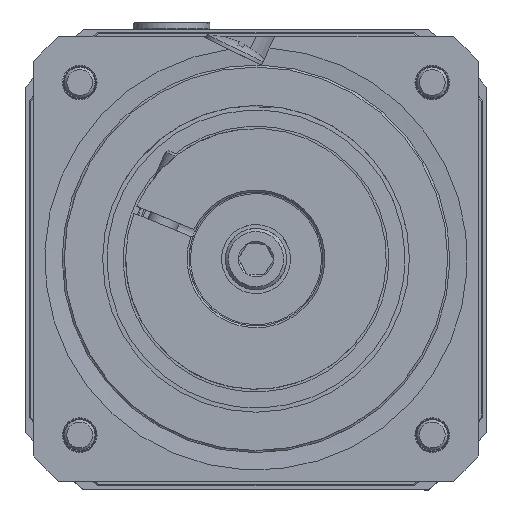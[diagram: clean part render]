
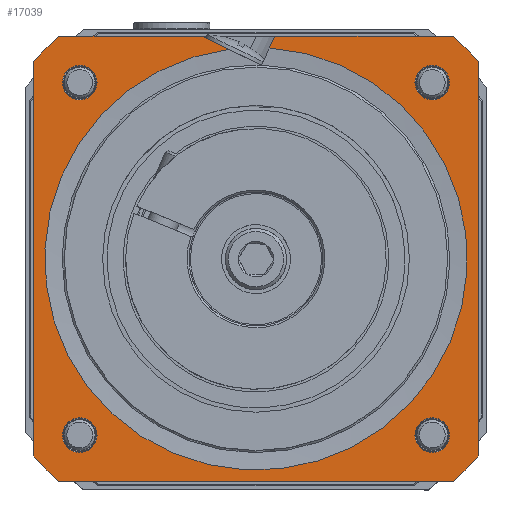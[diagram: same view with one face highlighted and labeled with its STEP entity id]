
A CAD part, top view. The second image highlights one B-rep face of the part: STEP entity #17039.
In plain terms, the highlighted planar face has unit normal (0, 0, 1).
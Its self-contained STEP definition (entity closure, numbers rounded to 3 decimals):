
#123 = AXIS2_PLACEMENT_3D ( 'NONE', #40960, #3451, #59847 ) ;
#420 = EDGE_CURVE ( 'NONE', #672, #57502, #23018, .T. ) ;
#534 = CARTESIAN_POINT ( 'NONE',  ( 51.403, 58., 30. ) ) ;
#672 = VERTEX_POINT ( 'NONE', #46834 ) ;
#851 = LINE ( 'NONE', #58148, #37894 ) ;
#884 = VERTEX_POINT ( 'NONE', #43577 ) ;
#899 = EDGE_CURVE ( 'NONE', #43371, #27096, #19960, .T. ) ;
#1407 = ORIENTED_EDGE ( 'NONE', *, *, #38966, .F. ) ;
#1421 = ORIENTED_EDGE ( 'NONE', *, *, #33701, .F. ) ;
#1693 = DIRECTION ( 'NONE',  ( -1., 0., 0. ) ) ;
#2261 = AXIS2_PLACEMENT_3D ( 'NONE', #8377, #40593, #59491 ) ;
#2375 = EDGE_CURVE ( 'NONE', #23643, #43371, #20975, .T. ) ;
#2742 = CIRCLE ( 'NONE', #61108, 4.5 ) ;
#3200 = CARTESIAN_POINT ( 'NONE',  ( 58., 58., 30. ) ) ;
#3451 = DIRECTION ( 'NONE',  ( 0., 0., 1. ) ) ;
#4769 = CARTESIAN_POINT ( 'NONE',  ( 50.462, 45.962, 30. ) ) ;
#5022 = VERTEX_POINT ( 'NONE', #30177 ) ;
#5069 = AXIS2_PLACEMENT_3D ( 'NONE', #33363, #52234, #6077 ) ;
#6077 = DIRECTION ( 'NONE',  ( -1., 0., 0. ) ) ;
#6351 = DIRECTION ( 'NONE',  ( 0., 0., -1. ) ) ;
#7037 = CARTESIAN_POINT ( 'NONE',  ( 58., -51.403, 30. ) ) ;
#7819 = FACE_BOUND ( 'NONE', #56952, .T. ) ;
#8377 = CARTESIAN_POINT ( 'NONE',  ( -45.962, 45.962, 30. ) ) ;
#8633 = ORIENTED_EDGE ( 'NONE', *, *, #50946, .F. ) ;
#9317 = VERTEX_POINT ( 'NONE', #21871 ) ;
#10091 = VECTOR ( 'NONE', #36905, 1000. ) ;
#10646 = VERTEX_POINT ( 'NONE', #29543 ) ;
#10674 = ORIENTED_EDGE ( 'NONE', *, *, #40647, .F. ) ;
#11527 = AXIS2_PLACEMENT_3D ( 'NONE', #40120, #30208, #35475 ) ;
#12389 = AXIS2_PLACEMENT_3D ( 'NONE', #14983, #43478, #53975 ) ;
#12932 = DIRECTION ( 'NONE',  ( -0.438, -0.899, 0. ) ) ;
#13391 = LINE ( 'NONE', #36595, #10091 ) ;
#14475 = AXIS2_PLACEMENT_3D ( 'NONE', #38883, #6351, #1693 ) ;
#14983 = CARTESIAN_POINT ( 'NONE',  ( 0., 0., 30. ) ) ;
#16984 = LINE ( 'NONE', #45459, #49186 ) ;
#17039 = ADVANCED_FACE ( 'NONE', ( #26429, #40655, #35993, #7819, #45601 ), #22071, .T. ) ;
#17110 = CIRCLE ( 'NONE', #2261, 4.5 ) ;
#18825 = ORIENTED_EDGE ( 'NONE', *, *, #48485, .T. ) ;
#19960 = CIRCLE ( 'NONE', #5069, 77.5 ) ;
#20920 = VECTOR ( 'NONE', #30751, 1000. ) ;
#20975 = LINE ( 'NONE', #3200, #43805 ) ;
#20982 = VERTEX_POINT ( 'NONE', #45389 ) ;
#21460 = CARTESIAN_POINT ( 'NONE',  ( -58., -77.5, 30. ) ) ;
#21524 = VERTEX_POINT ( 'NONE', #40720 ) ;
#21871 = CARTESIAN_POINT ( 'NONE',  ( -13.984, 58., 30. ) ) ;
#22071 = PLANE ( 'NONE',  #123 ) ;
#22821 = VERTEX_POINT ( 'NONE', #44562 ) ;
#23018 = LINE ( 'NONE', #41901, #49001 ) ;
#23643 = VERTEX_POINT ( 'NONE', #50827 ) ;
#25318 = ORIENTED_EDGE ( 'NONE', *, *, #47421, .F. ) ;
#25728 = DIRECTION ( 'NONE',  ( 1., 0., 0. ) ) ;
#26429 = FACE_BOUND ( 'NONE', #48546, .T. ) ;
#27096 = VERTEX_POINT ( 'NONE', #43953 ) ;
#28134 = CIRCLE ( 'NONE', #39976, 77.5 ) ;
#28215 = CIRCLE ( 'NONE', #12389, 77.5 ) ;
#28415 = EDGE_CURVE ( 'NONE', #57502, #23643, #53365, .T. ) ;
#28528 = CARTESIAN_POINT ( 'NONE',  ( 0., 0., 30. ) ) ;
#29152 = DIRECTION ( 'NONE',  ( 1., 0., 0. ) ) ;
#29543 = CARTESIAN_POINT ( 'NONE',  ( -41.462, -45.962, 30. ) ) ;
#30177 = CARTESIAN_POINT ( 'NONE',  ( -51.403, -58., 30. ) ) ;
#30208 = DIRECTION ( 'NONE',  ( 0., 0., 1. ) ) ;
#30312 = CIRCLE ( 'NONE', #11527, 4.5 ) ;
#30751 = DIRECTION ( 'NONE',  ( 0., 1., 0. ) ) ;
#30812 = ORIENTED_EDGE ( 'NONE', *, *, #899, .F. ) ;
#31205 = EDGE_LOOP ( 'NONE', ( #25318 ) ) ;
#31414 = EDGE_CURVE ( 'NONE', #39524, #884, #36288, .T. ) ;
#32520 = AXIS2_PLACEMENT_3D ( 'NONE', #34001, #56878, #42364 ) ;
#32978 = CARTESIAN_POINT ( 'NONE',  ( 50.462, -45.962, 30. ) ) ;
#33356 = EDGE_CURVE ( 'NONE', #20982, #34528, #41173, .T. ) ;
#33363 = CARTESIAN_POINT ( 'NONE',  ( 0., 0., 30. ) ) ;
#33677 = ORIENTED_EDGE ( 'NONE', *, *, #60668, .F. ) ;
#33701 = EDGE_CURVE ( 'NONE', #5022, #39524, #28215, .T. ) ;
#34001 = CARTESIAN_POINT ( 'NONE',  ( 45.962, 45.962, 30. ) ) ;
#34457 = ORIENTED_EDGE ( 'NONE', *, *, #31414, .F. ) ;
#34528 = VERTEX_POINT ( 'NONE', #40580 ) ;
#35475 = DIRECTION ( 'NONE',  ( 1., 0., 0. ) ) ;
#35993 = FACE_BOUND ( 'NONE', #55332, .T. ) ;
#36288 = LINE ( 'NONE', #21460, #20920 ) ;
#36595 = CARTESIAN_POINT ( 'NONE',  ( -10.37, 56.238, 30. ) ) ;
#36905 = DIRECTION ( 'NONE',  ( -0.899, 0.438, 0. ) ) ;
#37298 = VERTEX_POINT ( 'NONE', #32978 ) ;
#37537 = AXIS2_PLACEMENT_3D ( 'NONE', #28528, #60765, #51178 ) ;
#37894 = VECTOR ( 'NONE', #47943, 1000. ) ;
#38490 = ORIENTED_EDGE ( 'NONE', *, *, #2375, .F. ) ;
#38685 = EDGE_CURVE ( 'NONE', #34528, #9317, #13391, .T. ) ;
#38883 = CARTESIAN_POINT ( 'NONE',  ( 0., 0., 30. ) ) ;
#38966 = EDGE_CURVE ( 'NONE', #22821, #9317, #49269, .T. ) ;
#39022 = ORIENTED_EDGE ( 'NONE', *, *, #28415, .F. ) ;
#39254 = EDGE_LOOP ( 'NONE', ( #44808, #18825, #43770, #55536, #1407, #33677, #34457, #1421, #10674, #30812, #38490, #39022 ) ) ;
#39524 = VERTEX_POINT ( 'NONE', #49362 ) ;
#39861 = DIRECTION ( 'NONE',  ( 0., -1., 0. ) ) ;
#39976 = AXIS2_PLACEMENT_3D ( 'NONE', #60641, #42361, #55972 ) ;
#40025 = EDGE_CURVE ( 'NONE', #21524, #21524, #17110, .T. ) ;
#40120 = CARTESIAN_POINT ( 'NONE',  ( 45.962, -45.962, 30. ) ) ;
#40580 = CARTESIAN_POINT ( 'NONE',  ( -7.087, 54.636, 30. ) ) ;
#40593 = DIRECTION ( 'NONE',  ( 0., 0., 1. ) ) ;
#40647 = EDGE_CURVE ( 'NONE', #27096, #5022, #851, .T. ) ;
#40655 = FACE_BOUND ( 'NONE', #31205, .T. ) ;
#40720 = CARTESIAN_POINT ( 'NONE',  ( -41.462, 45.962, 30. ) ) ;
#40942 = ORIENTED_EDGE ( 'NONE', *, *, #53913, .F. ) ;
#40960 = CARTESIAN_POINT ( 'NONE',  ( 0., 77.5, 30. ) ) ;
#41173 = CIRCLE ( 'NONE', #14475, 55.094 ) ;
#41901 = CARTESIAN_POINT ( 'NONE',  ( -77.5, 58., 30. ) ) ;
#42361 = DIRECTION ( 'NONE',  ( 0., 0., -1. ) ) ;
#42364 = DIRECTION ( 'NONE',  ( 1., 0., 0. ) ) ;
#43371 = VERTEX_POINT ( 'NONE', #7037 ) ;
#43408 = CARTESIAN_POINT ( 'NONE',  ( -77.5, 58., 30. ) ) ;
#43478 = DIRECTION ( 'NONE',  ( 0., 0., -1. ) ) ;
#43577 = CARTESIAN_POINT ( 'NONE',  ( -58., 51.403, 30. ) ) ;
#43770 = ORIENTED_EDGE ( 'NONE', *, *, #33356, .T. ) ;
#43805 = VECTOR ( 'NONE', #39861, 1000. ) ;
#43953 = CARTESIAN_POINT ( 'NONE',  ( 51.403, -58., 30. ) ) ;
#44562 = CARTESIAN_POINT ( 'NONE',  ( -51.403, 58., 30. ) ) ;
#44808 = ORIENTED_EDGE ( 'NONE', *, *, #420, .F. ) ;
#45389 = CARTESIAN_POINT ( 'NONE',  ( 3.457, 54.985, 30. ) ) ;
#45459 = CARTESIAN_POINT ( 'NONE',  ( 11.664, 71.811, 30. ) ) ;
#45601 = FACE_OUTER_BOUND ( 'NONE', #39254, .T. ) ;
#46834 = CARTESIAN_POINT ( 'NONE',  ( 4.928, 58., 30. ) ) ;
#47119 = DIRECTION ( 'NONE',  ( 0., 0., 1. ) ) ;
#47202 = VERTEX_POINT ( 'NONE', #4769 ) ;
#47421 = EDGE_CURVE ( 'NONE', #37298, #37298, #30312, .T. ) ;
#47943 = DIRECTION ( 'NONE',  ( -1., 0., 0. ) ) ;
#48485 = EDGE_CURVE ( 'NONE', #672, #20982, #16984, .T. ) ;
#48546 = EDGE_LOOP ( 'NONE', ( #8633 ) ) ;
#49001 = VECTOR ( 'NONE', #60478, 1000. ) ;
#49186 = VECTOR ( 'NONE', #12932, 1000. ) ;
#49269 = LINE ( 'NONE', #43408, #57511 ) ;
#49362 = CARTESIAN_POINT ( 'NONE',  ( -58., -51.403, 30. ) ) ;
#50827 = CARTESIAN_POINT ( 'NONE',  ( 58., 51.403, 30. ) ) ;
#50946 = EDGE_CURVE ( 'NONE', #47202, #47202, #59238, .T. ) ;
#51178 = DIRECTION ( 'NONE',  ( -1., 0., 0. ) ) ;
#52234 = DIRECTION ( 'NONE',  ( 0., 0., -1. ) ) ;
#52426 = ORIENTED_EDGE ( 'NONE', *, *, #40025, .F. ) ;
#53365 = CIRCLE ( 'NONE', #37537, 77.5 ) ;
#53913 = EDGE_CURVE ( 'NONE', #10646, #10646, #2742, .T. ) ;
#53975 = DIRECTION ( 'NONE',  ( -1., 0., 0. ) ) ;
#55332 = EDGE_LOOP ( 'NONE', ( #40942 ) ) ;
#55536 = ORIENTED_EDGE ( 'NONE', *, *, #38685, .T. ) ;
#55972 = DIRECTION ( 'NONE',  ( -1., 0., 0. ) ) ;
#56878 = DIRECTION ( 'NONE',  ( 0., 0., 1. ) ) ;
#56952 = EDGE_LOOP ( 'NONE', ( #52426 ) ) ;
#57000 = CARTESIAN_POINT ( 'NONE',  ( -45.962, -45.962, 30. ) ) ;
#57502 = VERTEX_POINT ( 'NONE', #534 ) ;
#57511 = VECTOR ( 'NONE', #25728, 1000. ) ;
#58148 = CARTESIAN_POINT ( 'NONE',  ( 77.5, -58., 30. ) ) ;
#59238 = CIRCLE ( 'NONE', #32520, 4.5 ) ;
#59491 = DIRECTION ( 'NONE',  ( 1., 0., 0. ) ) ;
#59847 = DIRECTION ( 'NONE',  ( 1., 0., 0. ) ) ;
#60478 = DIRECTION ( 'NONE',  ( 1., 0., 0. ) ) ;
#60641 = CARTESIAN_POINT ( 'NONE',  ( 0., 0., 30. ) ) ;
#60668 = EDGE_CURVE ( 'NONE', #884, #22821, #28134, .T. ) ;
#60765 = DIRECTION ( 'NONE',  ( 0., 0., -1. ) ) ;
#61108 = AXIS2_PLACEMENT_3D ( 'NONE', #57000, #47119, #29152 ) ;
